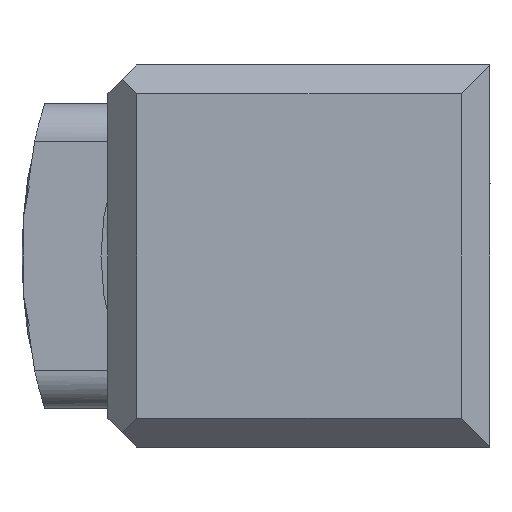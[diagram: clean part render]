
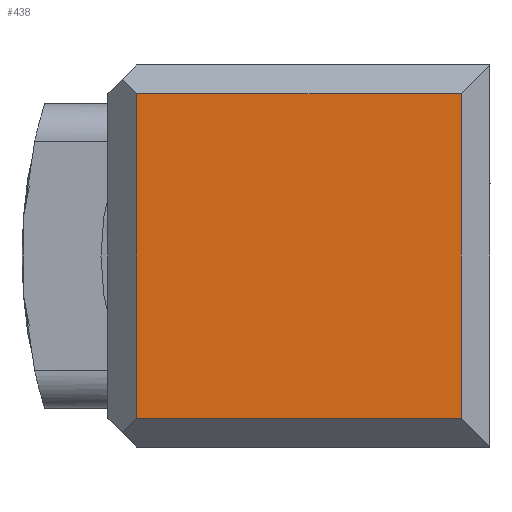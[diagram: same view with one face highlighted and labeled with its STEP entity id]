
A CAD part, left-side view. The second image highlights one B-rep face of the part: STEP entity #438.
In plain terms, the highlighted planar face has unit normal (-1, 0, 0).
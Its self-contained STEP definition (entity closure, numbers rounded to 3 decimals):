
#399=CARTESIAN_POINT('Axis2P3D Location',(-20.,0.,0.)) ;
#404=CARTESIAN_POINT('Line Origine',(-20.,8.5,0.)) ;
#408=CARTESIAN_POINT('Vertex',(-20.,8.5,8.5)) ;
#410=CARTESIAN_POINT('Vertex',(-20.,8.5,-8.5)) ;
#413=CARTESIAN_POINT('Line Origine',(-20.,0.,-8.5)) ;
#417=CARTESIAN_POINT('Vertex',(-20.,-8.5,-8.5)) ;
#420=CARTESIAN_POINT('Line Origine',(-20.,-8.5,0.)) ;
#424=CARTESIAN_POINT('Vertex',(-20.,-8.5,8.5)) ;
#427=CARTESIAN_POINT('Line Origine',(-20.,0.,8.5)) ;
#400=DIRECTION('Axis2P3D Direction',(-1.,0.,0.)) ;
#401=DIRECTION('Axis2P3D XDirection',(0.,-1.,0.)) ;
#405=DIRECTION('Vector Direction',(0.,0.,1.)) ;
#414=DIRECTION('Vector Direction',(0.,1.,0.)) ;
#421=DIRECTION('Vector Direction',(0.,0.,1.)) ;
#428=DIRECTION('Vector Direction',(0.,-1.,0.)) ;
#402=AXIS2_PLACEMENT_3D('Plane Axis2P3D',#399,#400,#401) ;
#433=ORIENTED_EDGE('',*,*,#412,.T.) ;
#434=ORIENTED_EDGE('',*,*,#419,.T.) ;
#435=ORIENTED_EDGE('',*,*,#426,.T.) ;
#436=ORIENTED_EDGE('',*,*,#431,.T.) ;
#406=VECTOR('Line Direction',#405,1.) ;
#415=VECTOR('Line Direction',#414,1.) ;
#422=VECTOR('Line Direction',#421,1.) ;
#429=VECTOR('Line Direction',#428,1.) ;
#438=ADVANCED_FACE('PartBody',(#437),#403,.T.) ;
#412=EDGE_CURVE('',#409,#411,#407,.F.) ;
#419=EDGE_CURVE('',#411,#418,#416,.F.) ;
#426=EDGE_CURVE('',#418,#425,#423,.T.) ;
#431=EDGE_CURVE('',#425,#409,#430,.F.) ;
#432=EDGE_LOOP('',(#433,#434,#435,#436)) ;
#437=FACE_OUTER_BOUND('',#432,.T.) ;
#407=LINE('Line',#404,#406) ;
#416=LINE('Line',#413,#415) ;
#423=LINE('Line',#420,#422) ;
#430=LINE('Line',#427,#429) ;
#403=PLANE('Plane',#402) ;
#409=VERTEX_POINT('',#408) ;
#411=VERTEX_POINT('',#410) ;
#418=VERTEX_POINT('',#417) ;
#425=VERTEX_POINT('',#424) ;
